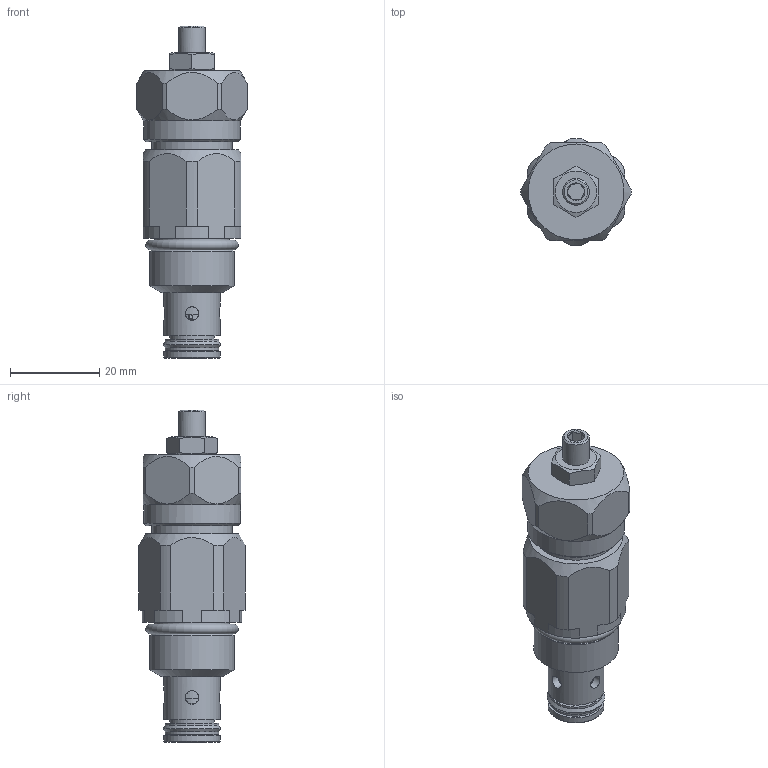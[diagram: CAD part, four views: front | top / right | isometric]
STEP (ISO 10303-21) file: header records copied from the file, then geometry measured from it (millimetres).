
FILE_DESCRIPTION(/* description */ ('Unknown'),/* implementation_level */ '2;1');
FILE_NAME(/* name */ 'VMC20',/* time_stamp */ '2024-12-05T10:44:29+01:00',/* author */ ('Unknown'),/* organization */ ('Unknown'),/* preprocessor_version */ 'ST-DEVELOPER v19.4',/* originating_system */ 'Solid Edge',/* authorisation */ 'Unknown');
FILE_SCHEMA (('AUTOMOTIVE_DESIGN {1 0 10303 214 3 1 1}'));
Length unit declared in the file: millimetre
Products named in the file (1): VMC20
Bounding box: 24.77 x 23.96 x 74.53 mm (x, y, z)
Volume: 19074.8 mm3; surface area: 9942.9 mm2
Topology: 1 solids, 1 shells, 133 faces, 332 edges, 219 vertices
Faces by surface type: plane 55, cylinder 45, cone 29, torus 3, bspline 1
Full cylindrical faces by diameter (mm): 1 x1, 2.15 x1, 2.997 x4, 3.796 x1, 4 x1, 5.095 x1, 5.75 x2, 5.994 x1, 6 x1, 8.94 x2, 8.991 x1, 9.89 x2, 10.989 x1, 11.988 x2, 12.587 x2, 16.833 x1, 17.982 x1, 19.031 x1, 21.778 x1
Entity records: 11411 total; most frequent: CARTESIAN_POINT 7714, DIRECTION 566, ORIENTED_EDGE 482, EDGE_CURVE 241, AXIS2_PLACEMENT_3D 241, FACE_BOUND 216, EDGE_LOOP 215, VERTEX_POINT 185
